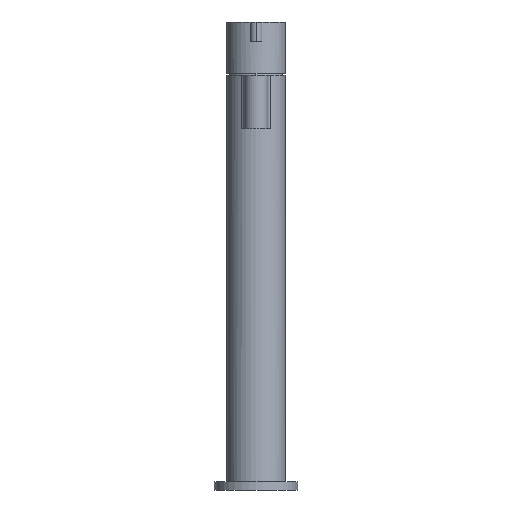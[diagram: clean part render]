
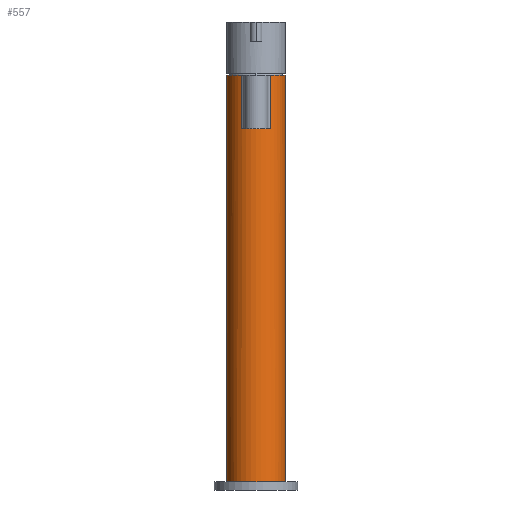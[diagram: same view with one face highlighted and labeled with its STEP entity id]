
A CAD part, front view. The second image highlights one B-rep face of the part: STEP entity #557.
In plain terms, the highlighted cylindrical face has radius 17.5 mm (diameter 35 mm), a partial arc.
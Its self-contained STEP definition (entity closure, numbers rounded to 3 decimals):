
#454 = VERTEX_POINT('',#455);
#455 = CARTESIAN_POINT('',(17.5,0.,
    248.));
#456 = VERTEX_POINT('',#457);
#457 = CARTESIAN_POINT('',(-17.5,0.,
    248.));
#464 = EDGE_CURVE('',#456,#465,#467,.T.);
#465 = VERTEX_POINT('',#466);
#466 = CARTESIAN_POINT('',(-8.537,-15.277,
    248.));
#467 = CIRCLE('',#468,17.5);
#468 = AXIS2_PLACEMENT_3D('',#469,#470,#471);
#469 = CARTESIAN_POINT('',(0.,0.,
    248.));
#470 = DIRECTION('',(0.,0.,1.));
#471 = DIRECTION('',(1.,0.,-0.));
#508 = VERTEX_POINT('',#509);
#509 = CARTESIAN_POINT('',(8.537,-15.277,248.
    ));
#516 = EDGE_CURVE('',#508,#454,#517,.T.);
#517 = CIRCLE('',#518,17.5);
#518 = AXIS2_PLACEMENT_3D('',#519,#520,#521);
#519 = CARTESIAN_POINT('',(0.,0.,
    248.));
#520 = DIRECTION('',(0.,0.,1.));
#521 = DIRECTION('',(1.,0.,-0.));
#536 = VERTEX_POINT('',#537);
#537 = CARTESIAN_POINT('',(-17.5,0.,5.));
#538 = VERTEX_POINT('',#539);
#539 = CARTESIAN_POINT('',(17.5,0.,5.));
#546 = EDGE_CURVE('',#538,#536,#547,.T.);
#547 = CIRCLE('',#548,17.5);
#548 = AXIS2_PLACEMENT_3D('',#549,#550,#551);
#549 = CARTESIAN_POINT('',(0.,0.,5.));
#550 = DIRECTION('',(0.,0.,-1.));
#551 = DIRECTION('',(1.,0.,0.));
#557 = ADVANCED_FACE('',(#558),#598,.T.);
#558 = FACE_BOUND('',#559,.T.);
#559 = EDGE_LOOP('',(#560,#561,#567,#568,#576,#585,#591,#592));
#560 = ORIENTED_EDGE('',*,*,#546,.F.);
#561 = ORIENTED_EDGE('',*,*,#562,.T.);
#562 = EDGE_CURVE('',#538,#454,#563,.T.);
#563 = LINE('',#564,#565);
#564 = CARTESIAN_POINT('',(17.5,0.,
    248.));
#565 = VECTOR('',#566,1.);
#566 = DIRECTION('',(0.,0.,1.));
#567 = ORIENTED_EDGE('',*,*,#516,.F.);
#568 = ORIENTED_EDGE('',*,*,#569,.T.);
#569 = EDGE_CURVE('',#508,#570,#572,.T.);
#570 = VERTEX_POINT('',#571);
#571 = CARTESIAN_POINT('',(8.537,-15.277,216.
    ));
#572 = LINE('',#573,#574);
#573 = CARTESIAN_POINT('',(8.537,-15.277,248.
    ));
#574 = VECTOR('',#575,1.);
#575 = DIRECTION('',(0.,0.,-1.));
#576 = ORIENTED_EDGE('',*,*,#577,.T.);
#577 = EDGE_CURVE('',#570,#578,#580,.T.);
#578 = VERTEX_POINT('',#579);
#579 = CARTESIAN_POINT('',(-8.537,-15.277,
    216.));
#580 = CIRCLE('',#581,17.5);
#581 = AXIS2_PLACEMENT_3D('',#582,#583,#584);
#582 = CARTESIAN_POINT('',(0.,0.,
    216.));
#583 = DIRECTION('',(0.,0.,-1.));
#584 = DIRECTION('',(1.,0.,0.));
#585 = ORIENTED_EDGE('',*,*,#586,.T.);
#586 = EDGE_CURVE('',#578,#465,#587,.T.);
#587 = LINE('',#588,#589);
#588 = CARTESIAN_POINT('',(-8.537,-15.277,
    216.));
#589 = VECTOR('',#590,1.);
#590 = DIRECTION('',(0.,0.,1.));
#591 = ORIENTED_EDGE('',*,*,#464,.F.);
#592 = ORIENTED_EDGE('',*,*,#593,.T.);
#593 = EDGE_CURVE('',#456,#536,#594,.T.);
#594 = LINE('',#595,#596);
#595 = CARTESIAN_POINT('',(-17.5,0.,
    248.));
#596 = VECTOR('',#597,1.);
#597 = DIRECTION('',(0.,0.,-1.));
#598 = CYLINDRICAL_SURFACE('',#599,17.5);
#599 = AXIS2_PLACEMENT_3D('',#600,#601,#602);
#600 = CARTESIAN_POINT('',(0.,0.,5.));
#601 = DIRECTION('',(0.,0.,1.));
#602 = DIRECTION('',(1.,0.,-0.));
